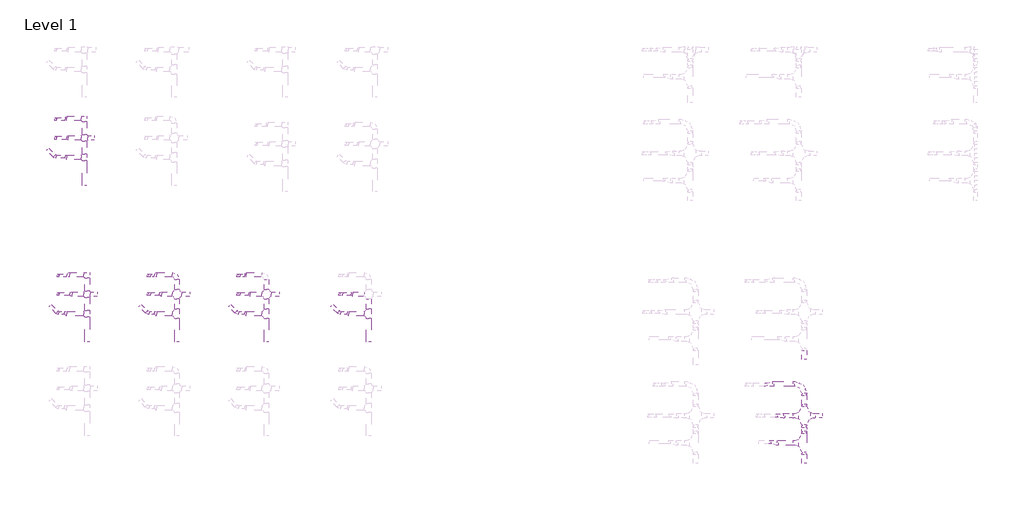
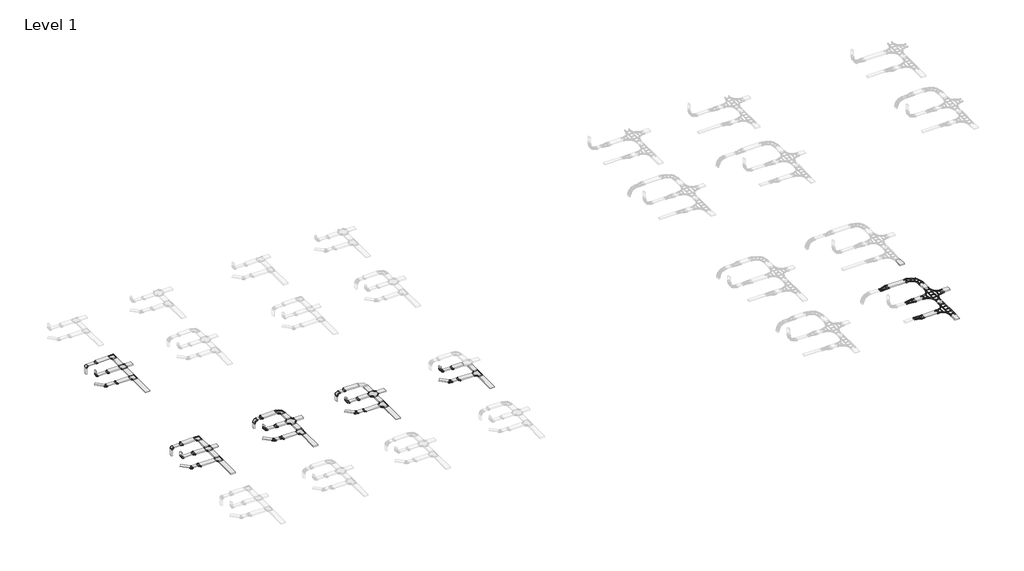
# One storey, part 2 of 9: 68 cable carrier segments, 46 cable carrier fittings.
"""IFC4 building model written with IfcOpenShell, lengths in millimetres."""

from ifc_helpers import new_model, si_unit, frame, origin, place, context, project, spatial, polyline, outline, extrude, transform, mapped, element, save
from components import cable_carrier_fitting_1_mm_2a4d519b, cable_carrier_fitting_1_mm_2e661681, cable_carrier_fitting_1_mm_c912ada3, cable_carrier_fitting_1_mm_5924018d, cable_carrier_fitting_1_mm_d3f2b815, cable_carrier_fitting_1_mm_367de262, cable_carrier_fitting_1_mm_a7febe8f, cable_carrier_fitting_1_mm_fc54f34e, cable_carrier_fitting_1_mm_42b71fda, cable_carrier_fitting_1_mm_1f89d0ee, cable_carrier_fitting_1_mm_ffd8b238, cable_carrier_fitting_1_mm_874ef249, cable_carrier_fitting_1_mm_28e4292d, cable_carrier_fitting_1_mm_9e79036f, cable_carrier_fitting_1_mm_2ea6bbca, cable_carrier_fitting_1_mm_d51f4f64, cable_carrier_fitting_1_mm_cfe8fd75, cable_carrier_fitting_1_mm_447bc4b9, cable_carrier_fitting_1_mm_be7f07a0, cable_carrier_fitting_1_mm_44e0f4b3, cable_carrier_fitting_1_mm_02684e42, cable_carrier_fitting_1_5_mm_3523910d, cable_carrier_fitting_1_5_mm_74426db5, cable_carrier_fitting_1_5_mm_ccf48cd3, cable_carrier_fitting_1_5_mm_0168b917, cable_carrier_fitting_1_mm_805de479, cable_carrier_fitting_1_mm_529289f4, cable_carrier_fitting_1_mm_c1197fce, cable_carrier_fitting_1_5_mm_cd1b78aa, cable_carrier_fitting_1_5_mm_8b0a73e9, cable_carrier_fitting_1_5_mm_19f47176

model = new_model("IFC4")

# Units and contexts
model_context = context("Model", 3, world=origin())
ifc_project = project(units=[si_unit("LENGTHUNIT", "METRE", prefix="MILLI")], contexts=[model_context])

# Site, building, storey
site = spatial("IfcSite", under=ifc_project)
building = spatial("IfcBuilding", under=site)
storey = spatial("IfcBuildingStorey", under=building, Name="Level 1", Elevation=0.0)

# Cable carrier fittings
placement = place(None, origin())
cable_carrier_fitting_1_mm_shape = cable_carrier_fitting_1_mm_2a4d519b(model_context)
element("IfcCableCarrierFitting", 1, ObjectType="BAKS_Redukcja : 1 mm", at=placement, inside=storey, context=model_context, shape_type="MappedRepresentation", body=[
    mapped(cable_carrier_fitting_1_mm_shape, transform((-20332.8504125, 13056.9815921, 2750.0), x_axis=(1.0, 0.0, 0.0), y_axis=(0.0, 1.0, 0.0), z_axis=(0.0, 0.0, 1.0))),
])
cable_carrier_fitting_1_mm_2_shape = cable_carrier_fitting_1_mm_2e661681(model_context)
element("IfcCableCarrierFitting", 2, ObjectType="BAKS_Redukcja : 1 mm", at=placement, inside=storey, context=model_context, shape_type="MappedRepresentation", body=[
    mapped(cable_carrier_fitting_1_mm_2_shape, transform((-20332.8504125, 14274.9728497, 2750.0), x_axis=(-1.0, 0.0, 0.0), y_axis=(0.0, -1.0, 0.0), z_axis=(0.0, 0.0, 1.0))),
])
cable_carrier_fitting_1_mm_3_shape = cable_carrier_fitting_1_mm_c912ada3(model_context)
element("IfcCableCarrierFitting", 3, ObjectType="BAKS_Redukcja : 1 mm", at=placement, inside=storey, context=model_context, shape_type="MappedRepresentation", body=[
    mapped(cable_carrier_fitting_1_mm_3_shape, transform((-20332.8504125, 11826.3491795, 2750.0), x_axis=(-1.0, 0.0, 0.0), y_axis=(0.0, -1.0, 0.0), z_axis=(0.0, 0.0, 1.0))),
])
cable_carrier_fitting_1_mm_4_shape = cable_carrier_fitting_1_mm_5924018d(model_context)
element("IfcCableCarrierFitting", 4, ObjectType="BAKS_Trójnik_koryta uniwersalny : 1 mm", at=placement, inside=storey, context=model_context, shape_type="MappedRepresentation", body=[
    mapped(cable_carrier_fitting_1_mm_4_shape, transform((-19070.165863, 2032.0937292, 2750.0), x_axis=(0.0, -1.0, 0.0), y_axis=(1.0, 0.0, 0.0), z_axis=(0.0, 0.0, 1.0))),
])
cable_carrier_fitting_1_mm_5_shape = cable_carrier_fitting_1_mm_d3f2b815(model_context)
element("IfcCableCarrierFitting", 5, ObjectType="BAKS_Czwórnik_koryta uniwersalny : 1 mm", at=placement, inside=storey, context=model_context, shape_type="MappedRepresentation", body=[
    mapped(cable_carrier_fitting_1_mm_5_shape, transform((-19070.165863, 3262.7261418, 2750.0), x_axis=(0.0, 1.0, 0.0), y_axis=(-1.0, 0.0, 0.0), z_axis=(0.0, 0.0, 1.0))),
])
cable_carrier_fitting_1_mm_6_shape = cable_carrier_fitting_1_mm_367de262(model_context)
element("IfcCableCarrierFitting", 6, ObjectType="BAKS_Czwórnik_koryta KLIK (R140) : 1 mm", at=placement, inside=storey, context=model_context, shape_type="MappedRepresentation", body=[
    mapped(cable_carrier_fitting_1_mm_6_shape, transform((-13450.165863, 3262.7261418, 2750.0), x_axis=(0.0, 1.0, 0.0), y_axis=(-1.0, 0.0, 0.0), z_axis=(0.0, 0.0, 1.0))),
])
cable_carrier_fitting_1_mm_7_shape = cable_carrier_fitting_1_mm_a7febe8f(model_context)
element("IfcCableCarrierFitting", 7, ObjectType="BAKS_Trójnik_koryta KLIK (R140) : 1 mm", at=placement, inside=storey, context=model_context, shape_type="MappedRepresentation", body=[
    mapped(cable_carrier_fitting_1_mm_7_shape, transform((-13450.165863, 2032.0937292, 2750.0), x_axis=(0.0, -1.0, 0.0), y_axis=(1.0, 0.0, 0.0), z_axis=(0.0, 0.0, 1.0))),
])
cable_carrier_fitting_1_mm_8_shape = cable_carrier_fitting_1_mm_fc54f34e(model_context)
element("IfcCableCarrierFitting", 8, ObjectType="BAKS_Kolano_koryta_uniwerslane : 1 mm", at=placement, inside=storey, context=model_context, shape_type="MappedRepresentation", body=[
    mapped(cable_carrier_fitting_1_mm_8_shape, transform((-20910.165863, 2082.0937292, 2750.0), x_axis=(0.7071067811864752, -0.70710678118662, 0.0), y_axis=(0.70710678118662, 0.7071067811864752, 0.0), z_axis=(0.0, 0.0, 1.0))),
])
cable_carrier_fitting_1_mm_9_shape = cable_carrier_fitting_1_mm_42b71fda(model_context)
element("IfcCableCarrierFitting", 9, ObjectType="BAKS_Kolano_koryta_uniwerslane : 1 mm", at=placement, inside=storey, context=model_context, shape_type="MappedRepresentation", body=[
    mapped(cable_carrier_fitting_1_mm_9_shape, transform((-19070.165863, 4480.7173994, 2750.0), x_axis=(0.0, 1.0, 0.0), y_axis=(-1.0, 0.0, 0.0), z_axis=(0.0, 0.0, 1.0))),
])
cable_carrier_fitting_1_mm_10_shape = cable_carrier_fitting_1_mm_1f89d0ee(model_context)
element("IfcCableCarrierFitting", 10, ObjectType="BAKS_Kolano_koryta_KLIK (R140) : 1 mm", at=placement, inside=storey, context=model_context, shape_type="MappedRepresentation", body=[
    mapped(cable_carrier_fitting_1_mm_10_shape, transform((-15290.165863, 2082.0937292, 2750.0), x_axis=(0.7071067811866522, -0.707106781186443, 0.0), y_axis=(0.707106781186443, 0.7071067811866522, 0.0), z_axis=(0.0, 0.0, 1.0))),
])
cable_carrier_fitting_1_mm_11_shape = cable_carrier_fitting_1_mm_ffd8b238(model_context)
element("IfcCableCarrierFitting", 11, ObjectType="BAKS_Kolano_koryta_KLIK (R140) : 1 mm", at=placement, inside=storey, context=model_context, shape_type="MappedRepresentation", body=[
    mapped(cable_carrier_fitting_1_mm_11_shape, transform((-13450.165863, 4480.7173994, 2750.0), x_axis=(0.0, 1.0, 0.0), y_axis=(-1.0, 0.0, 0.0), z_axis=(0.0, 0.0, 1.0))),
])
cable_carrier_fitting_1_mm_12_shape = cable_carrier_fitting_1_mm_874ef249(model_context)
element("IfcCableCarrierFitting", 12, ObjectType="BAKS_Kolano_koryta : 1 mm", at=placement, inside=storey, context=model_context, shape_type="MappedRepresentation", body=[
    mapped(cable_carrier_fitting_1_mm_12_shape, transform((-21072.8504125, 11876.3491795, 2750.0), x_axis=(0.7071067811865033, -0.7071067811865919, 0.0), y_axis=(0.7071067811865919, 0.7071067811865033, 0.0), z_axis=(0.0, 0.0, 1.0))),
])
cable_carrier_fitting_1_mm_13_shape = cable_carrier_fitting_1_mm_28e4292d(model_context)
element("IfcCableCarrierFitting", 13, ObjectType="BAKS_Kolano_koryta : 1 mm", at=placement, inside=storey, context=model_context, shape_type="MappedRepresentation", body=[
    mapped(cable_carrier_fitting_1_mm_13_shape, transform((-19232.8504125, 14274.9728497, 2750.0), x_axis=(0.0, 1.0, 0.0), y_axis=(-1.0, 0.0, 0.0), z_axis=(0.0, 0.0, 1.0))),
])
cable_carrier_fitting_1_mm_14_shape = cable_carrier_fitting_1_mm_9e79036f(model_context)
element("IfcCableCarrierFitting", 14, ObjectType="BAKS_Czwórnik_koryta : 1 mm", at=placement, inside=storey, context=model_context, shape_type="MappedRepresentation", body=[
    mapped(cable_carrier_fitting_1_mm_14_shape, transform((-19232.8504125, 13056.9815921, 2750.0), x_axis=(0.0, 1.0, 0.0), y_axis=(-1.0, 0.0, 0.0), z_axis=(0.0, 0.0, 1.0))),
])
cable_carrier_fitting_1_mm_15_shape = cable_carrier_fitting_1_mm_2ea6bbca(model_context)
element("IfcCableCarrierFitting", 15, ObjectType="BAKS_Trójnik_koryta : 1 mm", at=placement, inside=storey, context=model_context, shape_type="MappedRepresentation", body=[
    mapped(cable_carrier_fitting_1_mm_15_shape, transform((-19232.8504125, 11826.3491795, 2750.0), x_axis=(0.0, -1.0, 0.0), y_axis=(1.0, 0.0, 0.0), z_axis=(0.0, 0.0, 1.0))),
])
cable_carrier_fitting_1_mm_16_shape = cable_carrier_fitting_1_mm_d51f4f64(model_context)
element("IfcCableCarrierFitting", 16, ObjectType="BAKS_Łuk_koryta_pionowy (R50)z : 1 mm", at=placement, inside=storey, context=model_context, shape_type="MappedRepresentation", body=[
    mapped(cable_carrier_fitting_1_mm_16_shape, transform((-21072.8504125, 14224.9728497, 2750.0), x_axis=(0.0, 0.0, 1.0), y_axis=(1.0, 0.0, 0.0), z_axis=(0.0, 1.0, 0.0))),
])
element("IfcCableCarrierFitting", 17, ObjectType="BAKS_Łuk_koryta_pionowy (R50)w : 1 mm", at=placement, inside=storey, context=model_context, shape_type="MappedRepresentation", body=[
    mapped(cable_carrier_fitting_1_mm_16_shape, transform((-21072.8504125, 13056.9815921, 2750.0), x_axis=(0.0, 0.0, -1.0), y_axis=(1.0, 0.0, 0.0), z_axis=(0.0, -1.0, 0.0))),
])
cable_carrier_fitting_1_mm_17_shape = cable_carrier_fitting_1_mm_cfe8fd75(model_context)
element("IfcCableCarrierFitting", 18, ObjectType="BAKS_Łuk_koryta_pionowy (R50)z : 1 mm", at=placement, inside=storey, context=model_context, shape_type="MappedRepresentation", body=[
    mapped(cable_carrier_fitting_1_mm_17_shape, transform((-20910.165863, 4430.7173994, 2750.0), x_axis=(0.0, 0.0, 1.0), y_axis=(1.0, 0.0, 0.0), z_axis=(0.0, 1.0, 0.0))),
])
element("IfcCableCarrierFitting", 19, ObjectType="BAKS_Łuk_koryta_pionowy (R50)w : 1 mm", at=placement, inside=storey, context=model_context, shape_type="MappedRepresentation", body=[
    mapped(cable_carrier_fitting_1_mm_17_shape, transform((-20910.165863, 3262.7261418, 2750.0), x_axis=(0.0, 0.0, -1.0), y_axis=(1.0, 0.0, 0.0), z_axis=(0.0, -1.0, 0.0))),
])
cable_carrier_fitting_1_mm_18_shape = cable_carrier_fitting_1_mm_447bc4b9(model_context)
element("IfcCableCarrierFitting", 20, ObjectType="BAKS_Redukcja KLIK : 1 mm", at=placement, inside=storey, context=model_context, shape_type="MappedRepresentation", body=[
    mapped(cable_carrier_fitting_1_mm_18_shape, transform((-20170.165863, 3262.7261418, 2750.0), x_axis=(1.0, 0.0, 0.0), y_axis=(0.0, 1.0, 0.0), z_axis=(0.0, 0.0, 1.0))),
])
element("IfcCableCarrierFitting", 21, ObjectType="BAKS_Redukcja KLIK : 1 mm", at=placement, inside=storey, context=model_context, shape_type="MappedRepresentation", body=[
    mapped(cable_carrier_fitting_1_mm_18_shape, transform((-14550.165863, 3262.7261418, 2750.0), x_axis=(1.0, 0.0, 0.0), y_axis=(0.0, 1.0, 0.0), z_axis=(0.0, 0.0, 1.0))),
])
cable_carrier_fitting_1_mm_19_shape = cable_carrier_fitting_1_mm_be7f07a0(model_context)
element("IfcCableCarrierFitting", 22, ObjectType="BAKS_Redukcja KLIK : 1 mm", at=placement, inside=storey, context=model_context, shape_type="MappedRepresentation", body=[
    mapped(cable_carrier_fitting_1_mm_19_shape, transform((-20170.165863, 4480.7173994, 2750.0), x_axis=(-1.0, 0.0, 0.0), y_axis=(0.0, -1.0, 0.0), z_axis=(0.0, 0.0, 1.0))),
])
element("IfcCableCarrierFitting", 23, ObjectType="BAKS_Redukcja KLIK : 1 mm", at=placement, inside=storey, context=model_context, shape_type="MappedRepresentation", body=[
    mapped(cable_carrier_fitting_1_mm_19_shape, transform((-14710.165863, 4480.7173994, 2750.0), x_axis=(-1.0, 0.0, 0.0), y_axis=(0.0, -1.0, 0.0), z_axis=(0.0, 0.0, 1.0))),
])
cable_carrier_fitting_1_mm_20_shape = cable_carrier_fitting_1_mm_44e0f4b3(model_context)
element("IfcCableCarrierFitting", 24, ObjectType="BAKS_Redukcja KLIK : 1 mm", at=placement, inside=storey, context=model_context, shape_type="MappedRepresentation", body=[
    mapped(cable_carrier_fitting_1_mm_20_shape, transform((-20330.165863, 2032.0937292, 2750.0), x_axis=(-1.0, 0.0, 0.0), y_axis=(0.0, -1.0, 0.0), z_axis=(0.0, 0.0, 1.0))),
])
element("IfcCableCarrierFitting", 25, ObjectType="BAKS_Redukcja KLIK : 1 mm", at=placement, inside=storey, context=model_context, shape_type="MappedRepresentation", body=[
    mapped(cable_carrier_fitting_1_mm_20_shape, transform((-14710.165863, 2032.0937292, 2750.0), x_axis=(-1.0, 0.0, 0.0), y_axis=(0.0, -1.0, 0.0), z_axis=(0.0, 0.0, 1.0))),
])
cable_carrier_fitting_1_mm_21_shape = cable_carrier_fitting_1_mm_02684e42(model_context)
element("IfcCableCarrierFitting", 26, ObjectType="BAKS_Łuk_koryta_pionowy (R140)z : 1 mm", at=placement, inside=storey, context=model_context, shape_type="MappedRepresentation", body=[
    mapped(cable_carrier_fitting_1_mm_21_shape, transform((-15290.165863, 4430.7173994, 2750.0), x_axis=(0.0, 0.0, 1.0), y_axis=(1.0, 0.0, 0.0), z_axis=(0.0, 1.0, 0.0))),
])
element("IfcCableCarrierFitting", 27, ObjectType="BAKS_Łuk_koryta_pionowy (R140)w : 1 mm", at=placement, inside=storey, context=model_context, shape_type="MappedRepresentation", body=[
    mapped(cable_carrier_fitting_1_mm_21_shape, transform((-15290.165863, 3262.7261418, 2750.0), x_axis=(0.0, 0.0, -1.0), y_axis=(1.0, 0.0, 0.0), z_axis=(0.0, -1.0, 0.0))),
])
cable_carrier_fitting_1_5_mm_shape = cable_carrier_fitting_1_5_mm_3523910d(model_context)
element("IfcCableCarrierFitting", 28, ObjectType="BAKS_Łuk_drabiny E90 : 1.5 mm", at=placement, inside=storey, context=model_context, shape_type="MappedRepresentation", body=[
    mapped(cable_carrier_fitting_1_5_mm_shape, transform((25812.7309526, -2363.4535, 2750.0), x_axis=(0.0, 1.0, 0.0), y_axis=(-1.0, 0.0, 0.0), z_axis=(0.0, 0.0, 1.0))),
])
cable_carrier_fitting_1_5_mm_2_shape = cable_carrier_fitting_1_5_mm_74426db5(model_context)
element("IfcCableCarrierFitting", 29, ObjectType="BAKS_Redukcja_drabiny E90 : 1.5 mm", at=placement, inside=storey, context=model_context, shape_type="MappedRepresentation", body=[
    mapped(cable_carrier_fitting_1_5_mm_2_shape, transform((24621.055047, -4350.2319503, 2750.0), x_axis=(-1.0, 0.0, 0.0), y_axis=(0.0, -1.0, 0.0), z_axis=(0.0, 0.0, 1.0))),
])
cable_carrier_fitting_1_5_mm_3_shape = cable_carrier_fitting_1_5_mm_ccf48cd3(model_context)
element("IfcCableCarrierFitting", 30, ObjectType="BAKS_Redukcja_drabiny E90 : 1.5 mm", at=placement, inside=storey, context=model_context, shape_type="MappedRepresentation", body=[
    mapped(cable_carrier_fitting_1_5_mm_3_shape, transform((24212.7309526, -6052.0771703, 2750.0), x_axis=(-1.0, 0.0, 0.0), y_axis=(0.0, -1.0, 0.0), z_axis=(0.0, 0.0, 1.0))),
])
cable_carrier_fitting_1_5_mm_4_shape = cable_carrier_fitting_1_5_mm_0168b917(model_context)
element("IfcCableCarrierFitting", 31, ObjectType="BAKS_Redukcja_drabiny E90 : 1.5 mm", at=placement, inside=storey, context=model_context, shape_type="MappedRepresentation", body=[
    mapped(cable_carrier_fitting_1_5_mm_4_shape, transform((23346.1450634, -2413.4535, 2750.0), x_axis=(1.0, 0.0, 0.0), y_axis=(0.0, 1.0, 0.0), z_axis=(0.0, 0.0, 1.0))),
])
cable_carrier_fitting_1_mm_22_shape = cable_carrier_fitting_1_mm_805de479(model_context)
element("IfcCableCarrierFitting", 32, ObjectType="BAKS_Redukcja E90 : 1.5 mm", at=placement, inside=storey, context=model_context, shape_type="MappedRepresentation", body=[
    mapped(cable_carrier_fitting_1_mm_22_shape, transform((-2542.5459295, 3262.7261418, 2750.0), x_axis=(1.0, 0.0, 0.0), y_axis=(0.0, 1.0, 0.0), z_axis=(0.0, 0.0, 1.0))),
])
element("IfcCableCarrierFitting", 33, ObjectType="BAKS_Redukcja E90 : 1.5 mm", at=placement, inside=storey, context=model_context, shape_type="MappedRepresentation", body=[
    mapped(cable_carrier_fitting_1_mm_22_shape, transform((-8942.5459295, 3262.7261418, 2750.0), x_axis=(1.0, 0.0, 0.0), y_axis=(0.0, 1.0, 0.0), z_axis=(0.0, 0.0, 1.0))),
])
cable_carrier_fitting_1_mm_23_shape = cable_carrier_fitting_1_mm_529289f4(model_context)
element("IfcCableCarrierFitting", 34, ObjectType="BAKS_Redukcja E90 : 1.5 mm", at=placement, inside=storey, context=model_context, shape_type="MappedRepresentation", body=[
    mapped(cable_carrier_fitting_1_mm_23_shape, transform((-9102.5459295, 4480.7173994, 2750.0), x_axis=(-1.0, 0.0, 0.0), y_axis=(0.0, -1.0, 0.0), z_axis=(0.0, 0.0, 1.0))),
])
cable_carrier_fitting_1_mm_24_shape = cable_carrier_fitting_1_mm_c1197fce(model_context)
element("IfcCableCarrierFitting", 35, ObjectType="BAKS_Redukcja E90 : 1.5 mm", at=placement, inside=storey, context=model_context, shape_type="MappedRepresentation", body=[
    mapped(cable_carrier_fitting_1_mm_24_shape, transform((-2702.5459295, 2032.0937292, 2750.0), x_axis=(-1.0, 0.0, 0.0), y_axis=(0.0, -1.0, 0.0), z_axis=(0.0, 0.0, 1.0))),
])
element("IfcCableCarrierFitting", 36, ObjectType="BAKS_Redukcja E90 : 1.5 mm", at=placement, inside=storey, context=model_context, shape_type="MappedRepresentation", body=[
    mapped(cable_carrier_fitting_1_mm_24_shape, transform((-9102.5459295, 2032.0937292, 2750.0), x_axis=(-1.0, 0.0, 0.0), y_axis=(0.0, -1.0, 0.0), z_axis=(0.0, 0.0, 1.0))),
])
cable_carrier_fitting_1_5_mm_5_shape = cable_carrier_fitting_1_5_mm_cd1b78aa(model_context)
element("IfcCableCarrierFitting", 37, ObjectType="BAKS_Kolano_koryta E90 (R140) : 1.5 mm", at=placement, inside=storey, context=model_context, shape_type="MappedRepresentation", body=[
    mapped(cable_carrier_fitting_1_5_mm_5_shape, transform((-3282.5459295, 2082.0937292, 2750.0), x_axis=(0.7071067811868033, -0.7071067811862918, 0.0), y_axis=(0.7071067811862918, 0.7071067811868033, 0.0), z_axis=(0.0, 0.0, 1.0))),
])
element("IfcCableCarrierFitting", 38, ObjectType="BAKS_Kolano_koryta E90 (R140) : 1.5 mm", at=placement, inside=storey, context=model_context, shape_type="MappedRepresentation", body=[
    mapped(cable_carrier_fitting_1_5_mm_5_shape, transform((-9682.5459295, 2082.0937292, 2750.0), x_axis=(0.7071067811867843, -0.7071067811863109, 0.0), y_axis=(0.7071067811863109, 0.7071067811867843, 0.0), z_axis=(0.0, 0.0, 1.0))),
])
element("IfcCableCarrierFitting", 39, ObjectType="BAKS_Czwórnik_koryta E90 (R140) : 1.5 mm", at=placement, inside=storey, context=model_context, shape_type="MappedRepresentation", body=[
    mapped(cable_carrier_fitting_1_mm_6_shape, transform((-7842.5459295, 3262.7261418, 2750.0), x_axis=(0.0, 1.0, 0.0), y_axis=(-1.0, 0.0, 0.0), z_axis=(0.0, 0.0, 1.0))),
])
element("IfcCableCarrierFitting", 40, ObjectType="BAKS_Trójnik_koryta E90 (R140) : 1.5 mm", at=placement, inside=storey, context=model_context, shape_type="MappedRepresentation", body=[
    mapped(cable_carrier_fitting_1_mm_7_shape, transform((-1442.5459295, 2032.0937292, 2750.0), x_axis=(0.0, -1.0, 0.0), y_axis=(1.0, 0.0, 0.0), z_axis=(0.0, 0.0, 1.0))),
])
element("IfcCableCarrierFitting", 41, ObjectType="BAKS_Trójnik_koryta E90 (R140) : 1.5 mm", at=placement, inside=storey, context=model_context, shape_type="MappedRepresentation", body=[
    mapped(cable_carrier_fitting_1_mm_7_shape, transform((-7842.5459295, 2032.0937292, 2750.0), x_axis=(0.0, -1.0, 0.0), y_axis=(1.0, 0.0, 0.0), z_axis=(0.0, 0.0, 1.0))),
])
cable_carrier_fitting_1_5_mm_6_shape = cable_carrier_fitting_1_5_mm_8b0a73e9(model_context)
element("IfcCableCarrierFitting", 42, ObjectType="BAKS_Trójnik_drabiny E90 : 1.5 mm", at=placement, inside=storey, context=model_context, shape_type="MappedRepresentation", body=[
    mapped(cable_carrier_fitting_1_5_mm_6_shape, transform((25812.7309526, -6052.0771703, 2750.0), x_axis=(0.0, -1.0, 0.0), y_axis=(1.0, 0.0, 0.0), z_axis=(0.0, 0.0, 1.0))),
])
cable_carrier_fitting_1_5_mm_7_shape = cable_carrier_fitting_1_5_mm_19f47176(model_context)
element("IfcCableCarrierFitting", 43, ObjectType="BAKS_Czwórnik_drabiny E90 : 1.5 mm", at=placement, inside=storey, context=model_context, shape_type="MappedRepresentation", body=[
    mapped(cable_carrier_fitting_1_5_mm_7_shape, transform((25812.7309526, -4350.2319503, 2750.0), x_axis=(0.0, 1.0, 0.0), y_axis=(-1.0, 0.0, 0.0), z_axis=(0.0, 0.0, 1.0))),
])
element("IfcCableCarrierFitting", 44, ObjectType="BAKS_Łuk_koryta_pionowy E90 (R140)z : 1.5 mm", at=placement, inside=storey, context=model_context, shape_type="MappedRepresentation", body=[
    mapped(cable_carrier_fitting_1_mm_21_shape, transform((-9682.5459295, 4430.7173994, 2750.0), x_axis=(0.0, 0.0, 1.0), y_axis=(1.0, 0.0, 0.0), z_axis=(0.0, 1.0, 0.0))),
])
element("IfcCableCarrierFitting", 45, ObjectType="BAKS_Łuk_koryta_pionowy E90 (R140)w : 1.5 mm", at=placement, inside=storey, context=model_context, shape_type="MappedRepresentation", body=[
    mapped(cable_carrier_fitting_1_mm_21_shape, transform((-3282.5459295, 3262.7261418, 2750.0), x_axis=(0.0, 0.0, -1.0), y_axis=(1.0, 0.0, 0.0), z_axis=(0.0, -1.0, 0.0))),
])
element("IfcCableCarrierFitting", 46, ObjectType="BAKS_Łuk_koryta_pionowy E90 (R140)w : 1.5 mm", at=placement, inside=storey, context=model_context, shape_type="MappedRepresentation", body=[
    mapped(cable_carrier_fitting_1_mm_21_shape, transform((-9682.5459295, 3262.7261418, 2750.0), x_axis=(0.0, 0.0, -1.0), y_axis=(1.0, 0.0, 0.0), z_axis=(0.0, -1.0, 0.0))),
])

# Cable carrier segments
element("IfcCableCarrierSegment", 47, ObjectType="BAKS - koryto kablowe H60 KLIK (KFJ) - ostre", at=placement, inside=storey, context=model_context, shape_type="SweptSolid", body=[
    extrude(outline(polyline([(-18920.165863, 2237.0937292), (-19220.165863, 2237.0937292), (-19220.165863, 3057.7261418), (-18920.165863, 3057.7261418), (-18920.165863, 2237.0937292)])), frame((0.0, 0.0, 2720.0), z_axis=(0.0, 0.0, 1.0), x_axis=(1.0, 0.0, 0.0)), (0.0, 0.0, 1.0), 60.0),
])
element("IfcCableCarrierSegment", 48, ObjectType="BAKS - koryto kablowe H60 KLIK (KFJ) - ostre", at=placement, inside=storey, context=model_context, shape_type="SweptSolid", body=[
    extrude(outline(polyline([(-20880.165863, 4330.7173994), (-20940.165863, 4330.7173994), (-20940.165863, 4530.7173994), (-20880.165863, 4530.7173994), (-20880.165863, 4330.7173994)])), frame((0.0, 0.0, 2200.0), z_axis=(0.0, 0.0, 1.0), x_axis=(1.0, 0.0, 0.0)), (0.0, 0.0, 1.0), 445.0),
])
element("IfcCableCarrierSegment", 49, ObjectType="BAKS - koryto kablowe H60 KLIK (KFJ) - ostre", at=placement, inside=storey, context=model_context, shape_type="SweptSolid", body=[
    extrude(outline(polyline([(-20330.165863, 4530.7173994), (-20330.165863, 4330.7173994), (-20805.165863, 4330.7173994), (-20805.165863, 4530.7173994), (-20330.165863, 4530.7173994)])), frame((0.0, 0.0, 2720.0), z_axis=(0.0, 0.0, 1.0), x_axis=(1.0, 0.0, 0.0)), (0.0, 0.0, 1.0), 60.0),
])
element("IfcCableCarrierSegment", 50, ObjectType="BAKS - koryto kablowe H60 KLIK (KFJ) - ostre", at=placement, inside=storey, context=model_context, shape_type="SweptSolid", body=[
    extrude(outline(polyline([(-18920.165863, 280.7173994), (-19220.165863, 280.7173994), (-19220.165863, 1827.0937292), (-18920.165863, 1827.0937292), (-18920.165863, 280.7173994)])), frame((0.0, 0.0, 2720.0), z_axis=(0.0, 0.0, 1.0), x_axis=(1.0, 0.0, 0.0)), (0.0, 0.0, 1.0), 60.0),
])
element("IfcCableCarrierSegment", 51, ObjectType="BAKS - koryto kablowe H60 KLIK (KFJ) - ostre", at=placement, inside=storey, context=model_context, shape_type="SweptSolid", body=[
    extrude(outline(polyline([(-20940.165863, 3162.7261418), (-20940.165863, 3362.7261418), (-20880.165863, 3362.7261418), (-20880.165863, 3162.7261418), (-20940.165863, 3162.7261418)])), frame((0.0, 0.0, 2855.0), z_axis=(0.0, 0.0, 1.0), x_axis=(1.0, 0.0, 0.0)), (0.0, 0.0, 1.0), 245.0),
])
element("IfcCableCarrierSegment", 52, ObjectType="BAKS - koryto kablowe H60 KLIK (KFJ) - ostre", at=placement, inside=storey, context=model_context, shape_type="SweptSolid", body=[
    extrude(outline(polyline([(-20805.165863, 3162.7261418), (-20805.165863, 3362.7261418), (-20170.165863, 3362.7261418), (-20170.165863, 3162.7261418), (-20805.165863, 3162.7261418)])), frame((0.0, 0.0, 2720.0), z_axis=(0.0, 0.0, 1.0), x_axis=(1.0, 0.0, 0.0)), (0.0, 0.0, 1.0), 60.0),
])
element("IfcCableCarrierSegment", 53, ObjectType="BAKS - koryto kablowe H60 KLIK (KFJ) - ostre", at=placement, inside=storey, context=model_context, shape_type="SweptSolid", body=[
    extrude(outline(polyline([(-21447.5670167, 2478.0735267), (-21306.1456605, 2619.4948829), (-20885.5607406, 2198.909963), (-21026.9820968, 2057.4886068), (-21447.5670167, 2478.0735267)])), frame((0.0, 0.0, 2720.0), z_axis=(0.0, 0.0, 1.0), x_axis=(1.0, 0.0, 0.0)), (0.0, 0.0, 1.0), 60.0),
])
element("IfcCableCarrierSegment", 54, ObjectType="BAKS - koryto kablowe H60 KLIK (KFJ) - ostre", at=placement, inside=storey, context=model_context, shape_type="SweptSolid", body=[
    extrude(outline(polyline([(-20490.165863, 2182.0937292), (-20490.165863, 1982.0937292), (-20844.9627608, 1982.0937292), (-20844.9627608, 2182.0937292), (-20490.165863, 2182.0937292)])), frame((0.0, 0.0, 2720.0), z_axis=(0.0, 0.0, 1.0), x_axis=(1.0, 0.0, 0.0)), (0.0, 0.0, 1.0), 60.0),
])
element("IfcCableCarrierSegment", 55, ObjectType="BAKS - koryto kablowe H60 KLIK (KFJ) - ostre", at=placement, inside=storey, context=model_context, shape_type="SweptSolid", body=[
    extrude(outline(polyline([(-18447.665863, 3412.7261418), (-18447.665863, 3112.7261418), (-18865.165863, 3112.7261418), (-18865.165863, 3412.7261418), (-18447.665863, 3412.7261418)])), frame((0.0, 0.0, 2720.0), z_axis=(0.0, 0.0, 1.0), x_axis=(1.0, 0.0, 0.0)), (0.0, 0.0, 1.0), 60.0),
])
element("IfcCableCarrierSegment", 56, ObjectType="BAKS - koryto kablowe H60 KLIK (KFJ) - ostre", at=placement, inside=storey, context=model_context, shape_type="SweptSolid", body=[
    extrude(outline(polyline([(-19275.165863, 2182.0937292), (-19275.165863, 1882.0937292), (-20330.165863, 1882.0937292), (-20330.165863, 2182.0937292), (-19275.165863, 2182.0937292)])), frame((0.0, 0.0, 2720.0), z_axis=(0.0, 0.0, 1.0), x_axis=(1.0, 0.0, 0.0)), (0.0, 0.0, 1.0), 60.0),
])
element("IfcCableCarrierSegment", 57, ObjectType="BAKS - koryto kablowe H60 KLIK (KFJ) - ostre", at=placement, inside=storey, context=model_context, shape_type="SweptSolid", body=[
    extrude(outline(polyline([(-20010.165863, 3112.7261418), (-20010.165863, 3412.7261418), (-19275.165863, 3412.7261418), (-19275.165863, 3112.7261418), (-20010.165863, 3112.7261418)])), frame((0.0, 0.0, 2720.0), z_axis=(0.0, 0.0, 1.0), x_axis=(1.0, 0.0, 0.0)), (0.0, 0.0, 1.0), 60.0),
])
element("IfcCableCarrierSegment", 58, ObjectType="BAKS - koryto kablowe H60 KLIK (KFJ) - ostre", at=placement, inside=storey, context=model_context, shape_type="SweptSolid", body=[
    extrude(outline(polyline([(-18920.165863, 3467.7261418), (-19220.165863, 3467.7261418), (-19220.165863, 4274.7173994), (-18920.165863, 4274.7173994), (-18920.165863, 3467.7261418)])), frame((0.0, 0.0, 2720.0), z_axis=(0.0, 0.0, 1.0), x_axis=(1.0, 0.0, 0.0)), (0.0, 0.0, 1.0), 60.0),
])
element("IfcCableCarrierSegment", 59, ObjectType="BAKS - koryto kablowe H60 KLIK (KFJ) - ostre", at=placement, inside=storey, context=model_context, shape_type="SweptSolid", body=[
    extrude(outline(polyline([(-19276.165863, 4630.7173994), (-19276.165863, 4330.7173994), (-20170.165863, 4330.7173994), (-20170.165863, 4630.7173994), (-19276.165863, 4630.7173994)])), frame((0.0, 0.0, 2720.0), z_axis=(0.0, 0.0, 1.0), x_axis=(1.0, 0.0, 0.0)), (0.0, 0.0, 1.0), 60.0),
])
element("IfcCableCarrierSegment", 60, ObjectType="BAKS - koryto kablowe H60 KLIK (KFJ) - promieniowe", at=placement, inside=storey, context=model_context, shape_type="SweptSolid", body=[
    extrude(outline(polyline([(-13300.165863, 2323.0937292), (-13600.165863, 2323.0937292), (-13600.165863, 2971.7261418), (-13300.165863, 2971.7261418), (-13300.165863, 2323.0937292)])), frame((0.0, 0.0, 2720.0), z_axis=(0.0, 0.0, 1.0), x_axis=(1.0, 0.0, 0.0)), (0.0, 0.0, 1.0), 60.0),
])
element("IfcCableCarrierSegment", 61, ObjectType="BAKS - koryto kablowe H60 KLIK (KFJ) - promieniowe", at=placement, inside=storey, context=model_context, shape_type="SweptSolid", body=[
    extrude(outline(polyline([(-15260.165863, 4330.7173994), (-15320.165863, 4330.7173994), (-15320.165863, 4530.7173994), (-15260.165863, 4530.7173994), (-15260.165863, 4330.7173994)])), frame((0.0, 0.0, 2200.0), z_axis=(0.0, 0.0, 1.0), x_axis=(1.0, 0.0, 0.0)), (0.0, 0.0, 1.0), 355.0),
])
element("IfcCableCarrierSegment", 62, ObjectType="BAKS - koryto kablowe H60 KLIK (KFJ) - promieniowe", at=placement, inside=storey, context=model_context, shape_type="SweptSolid", body=[
    extrude(outline(polyline([(-14870.165863, 4530.7173994), (-14870.165863, 4330.7173994), (-15095.165863, 4330.7173994), (-15095.165863, 4530.7173994), (-14870.165863, 4530.7173994)])), frame((0.0, 0.0, 2720.0), z_axis=(0.0, 0.0, 1.0), x_axis=(1.0, 0.0, 0.0)), (0.0, 0.0, 1.0), 60.0),
])
element("IfcCableCarrierSegment", 63, ObjectType="BAKS - koryto kablowe H60 KLIK (KFJ) - promieniowe", at=placement, inside=storey, context=model_context, shape_type="SweptSolid", body=[
    extrude(outline(polyline([(-13300.165863, 280.7173994), (-13600.165863, 280.7173994), (-13600.165863, 1741.0937292), (-13300.165863, 1741.0937292), (-13300.165863, 280.7173994)])), frame((0.0, 0.0, 2720.0), z_axis=(0.0, 0.0, 1.0), x_axis=(1.0, 0.0, 0.0)), (0.0, 0.0, 1.0), 60.0),
])
element("IfcCableCarrierSegment", 64, ObjectType="BAKS - koryto kablowe H60 KLIK (KFJ) - promieniowe", at=placement, inside=storey, context=model_context, shape_type="SweptSolid", body=[
    extrude(outline(polyline([(-15320.165863, 3162.7261418), (-15320.165863, 3362.7261418), (-15260.165863, 3362.7261418), (-15260.165863, 3162.7261418), (-15320.165863, 3162.7261418)])), frame((0.0, 0.0, 2945.0), z_axis=(0.0, 0.0, 1.0), x_axis=(1.0, 0.0, 0.0)), (0.0, 0.0, 1.0), 155.0),
])
element("IfcCableCarrierSegment", 65, ObjectType="BAKS - koryto kablowe H60 KLIK (KFJ) - promieniowe", at=placement, inside=storey, context=model_context, shape_type="SweptSolid", body=[
    extrude(outline(polyline([(-15095.165863, 3162.7261418), (-15095.165863, 3362.7261418), (-14550.165863, 3362.7261418), (-14550.165863, 3162.7261418), (-15095.165863, 3162.7261418)])), frame((0.0, 0.0, 2720.0), z_axis=(0.0, 0.0, 1.0), x_axis=(1.0, 0.0, 0.0)), (0.0, 0.0, 1.0), 60.0),
])
element("IfcCableCarrierSegment", 66, ObjectType="BAKS - koryto kablowe H60 KLIK (KFJ) - promieniowe", at=placement, inside=storey, context=model_context, shape_type="SweptSolid", body=[
    extrude(outline(polyline([(-15827.5670167, 2478.0735267), (-15686.1456605, 2619.4948829), (-15290.4566642, 2223.8058866), (-15431.8780204, 2082.3845304), (-15827.5670167, 2478.0735267)])), frame((0.0, 0.0, 2720.0), z_axis=(0.0, 0.0, 1.0), x_axis=(1.0, 0.0, 0.0)), (0.0, 0.0, 1.0), 60.0),
])
element("IfcCableCarrierSegment", 67, ObjectType="BAKS - koryto kablowe H60 KLIK (KFJ) - promieniowe", at=placement, inside=storey, context=model_context, shape_type="SweptSolid", body=[
    extrude(outline(polyline([(-14870.165863, 2182.0937292), (-14870.165863, 1982.0937292), (-15189.754608, 1982.0937292), (-15189.754608, 2182.0937292), (-14870.165863, 2182.0937292)])), frame((0.0, 0.0, 2720.0), z_axis=(0.0, 0.0, 1.0), x_axis=(1.0, 0.0, 0.0)), (0.0, 0.0, 1.0), 60.0),
])
element("IfcCableCarrierSegment", 68, ObjectType="BAKS - koryto kablowe H60 KLIK (KFJ) - promieniowe", at=placement, inside=storey, context=model_context, shape_type="SweptSolid", body=[
    extrude(outline(polyline([(-12655.165863, 3412.7261418), (-12655.165863, 3112.7261418), (-13159.165863, 3112.7261418), (-13159.165863, 3412.7261418), (-12655.165863, 3412.7261418)])), frame((0.0, 0.0, 2720.0), z_axis=(0.0, 0.0, 1.0), x_axis=(1.0, 0.0, 0.0)), (0.0, 0.0, 1.0), 60.0),
])
element("IfcCableCarrierSegment", 69, ObjectType="BAKS - koryto kablowe H60 KLIK (KFJ) - promieniowe", at=placement, inside=storey, context=model_context, shape_type="SweptSolid", body=[
    extrude(outline(polyline([(-13741.165863, 2182.0937292), (-13741.165863, 1882.0937292), (-14710.165863, 1882.0937292), (-14710.165863, 2182.0937292), (-13741.165863, 2182.0937292)])), frame((0.0, 0.0, 2720.0), z_axis=(0.0, 0.0, 1.0), x_axis=(1.0, 0.0, 0.0)), (0.0, 0.0, 1.0), 60.0),
])
element("IfcCableCarrierSegment", 70, ObjectType="BAKS - koryto kablowe H60 KLIK (KFJ) - promieniowe", at=placement, inside=storey, context=model_context, shape_type="SweptSolid", body=[
    extrude(outline(polyline([(-14390.165863, 3112.7261418), (-14390.165863, 3412.7261418), (-13741.165863, 3412.7261418), (-13741.165863, 3112.7261418), (-14390.165863, 3112.7261418)])), frame((0.0, 0.0, 2720.0), z_axis=(0.0, 0.0, 1.0), x_axis=(1.0, 0.0, 0.0)), (0.0, 0.0, 1.0), 60.0),
])
element("IfcCableCarrierSegment", 71, ObjectType="BAKS - koryto kablowe H60 KLIK (KFJ) - promieniowe", at=placement, inside=storey, context=model_context, shape_type="SweptSolid", body=[
    extrude(outline(polyline([(-13300.165863, 3553.7261418), (-13600.165863, 3553.7261418), (-13600.165863, 4189.7173994), (-13300.165863, 4189.7173994), (-13300.165863, 3553.7261418)])), frame((0.0, 0.0, 2720.0), z_axis=(0.0, 0.0, 1.0), x_axis=(1.0, 0.0, 0.0)), (0.0, 0.0, 1.0), 60.0),
])
element("IfcCableCarrierSegment", 72, ObjectType="BAKS - koryto kablowe H60 KLIK (KFJ) - promieniowe", at=placement, inside=storey, context=model_context, shape_type="SweptSolid", body=[
    extrude(outline(polyline([(-13741.165863, 4630.7173994), (-13741.165863, 4330.7173994), (-14710.165863, 4330.7173994), (-14710.165863, 4630.7173994), (-13741.165863, 4630.7173994)])), frame((0.0, 0.0, 2720.0), z_axis=(0.0, 0.0, 1.0), x_axis=(1.0, 0.0, 0.0)), (0.0, 0.0, 1.0), 60.0),
])
element("IfcCableCarrierSegment", 73, ObjectType="BAKS - koryto kablowe H50 (KCJ) - ostre", at=placement, inside=storey, context=model_context, shape_type="SweptSolid", body=[
    extrude(outline(polyline([(-19082.8504125, 12031.3491795), (-19382.8504125, 12031.3491795), (-19382.8504125, 12851.9815921), (-19082.8504125, 12851.9815921), (-19082.8504125, 12031.3491795)])), frame((0.0, 0.0, 2725.0), z_axis=(0.0, 0.0, 1.0), x_axis=(1.0, 0.0, 0.0)), (0.0, 0.0, 1.0), 50.0),
])
element("IfcCableCarrierSegment", 74, ObjectType="BAKS - koryto kablowe H50 (KCJ) - ostre", at=placement, inside=storey, context=model_context, shape_type="SweptSolid", body=[
    extrude(outline(polyline([(-21047.8504125, 14124.9728497), (-21097.8504125, 14124.9728497), (-21097.8504125, 14324.9728497), (-21047.8504125, 14324.9728497), (-21047.8504125, 14124.9728497)])), frame((0.0, 0.0, 2200.0), z_axis=(0.0, 0.0, 1.0), x_axis=(1.0, 0.0, 0.0)), (0.0, 0.0, 1.0), 450.0),
])
element("IfcCableCarrierSegment", 75, ObjectType="BAKS - koryto kablowe H50 (KCJ) - ostre", at=placement, inside=storey, context=model_context, shape_type="SweptSolid", body=[
    extrude(outline(polyline([(-20427.8504125, 14324.9728497), (-20427.8504125, 14124.9728497), (-20972.8504125, 14124.9728497), (-20972.8504125, 14324.9728497), (-20427.8504125, 14324.9728497)])), frame((0.0, 0.0, 2725.0), z_axis=(0.0, 0.0, 1.0), x_axis=(1.0, 0.0, 0.0)), (0.0, 0.0, 1.0), 50.0),
])
element("IfcCableCarrierSegment", 76, ObjectType="BAKS - koryto kablowe H50 (KCJ) - ostre", at=placement, inside=storey, context=model_context, shape_type="SweptSolid", body=[
    extrude(outline(polyline([(-19082.8504125, 10074.9728497), (-19382.8504125, 10074.9728497), (-19382.8504125, 11621.3491795), (-19082.8504125, 11621.3491795), (-19082.8504125, 10074.9728497)])), frame((0.0, 0.0, 2725.0), z_axis=(0.0, 0.0, 1.0), x_axis=(1.0, 0.0, 0.0)), (0.0, 0.0, 1.0), 50.0),
])
element("IfcCableCarrierSegment", 77, ObjectType="BAKS - koryto kablowe H50 (KCJ) - ostre", at=placement, inside=storey, context=model_context, shape_type="SweptSolid", body=[
    extrude(outline(polyline([(-21097.8504125, 12956.9815921), (-21097.8504125, 13156.9815921), (-21047.8504125, 13156.9815921), (-21047.8504125, 12956.9815921), (-21097.8504125, 12956.9815921)])), frame((0.0, 0.0, 2850.0), z_axis=(0.0, 0.0, 1.0), x_axis=(1.0, 0.0, 0.0)), (0.0, 0.0, 1.0), 250.0),
])
element("IfcCableCarrierSegment", 78, ObjectType="BAKS - koryto kablowe H50 (KCJ) - ostre", at=placement, inside=storey, context=model_context, shape_type="SweptSolid", body=[
    extrude(outline(polyline([(-20972.8504125, 12956.9815921), (-20972.8504125, 13156.9815921), (-20332.8504125, 13156.9815921), (-20332.8504125, 12956.9815921), (-20972.8504125, 12956.9815921)])), frame((0.0, 0.0, 2725.0), z_axis=(0.0, 0.0, 1.0), x_axis=(1.0, 0.0, 0.0)), (0.0, 0.0, 1.0), 50.0),
])
element("IfcCableCarrierSegment", 79, ObjectType="BAKS - koryto kablowe H50 (KCJ) - ostre", at=placement, inside=storey, context=model_context, shape_type="SweptSolid", body=[
    extrude(outline(polyline([(-21610.2515662, 12272.3289769), (-21468.83021, 12413.7503332), (-21048.2452901, 11993.1654133), (-21189.6666463, 11851.744057), (-21610.2515662, 12272.3289769)])), frame((0.0, 0.0, 2725.0), z_axis=(0.0, 0.0, 1.0), x_axis=(1.0, 0.0, 0.0)), (0.0, 0.0, 1.0), 50.0),
])
element("IfcCableCarrierSegment", 80, ObjectType="BAKS - koryto kablowe H50 (KCJ) - ostre", at=placement, inside=storey, context=model_context, shape_type="SweptSolid", body=[
    extrude(outline(polyline([(-20427.8504125, 11976.3491795), (-20427.8504125, 11776.3491795), (-21007.6473103, 11776.3491795), (-21007.6473103, 11976.3491795), (-20427.8504125, 11976.3491795)])), frame((0.0, 0.0, 2725.0), z_axis=(0.0, 0.0, 1.0), x_axis=(1.0, 0.0, 0.0)), (0.0, 0.0, 1.0), 50.0),
])
element("IfcCableCarrierSegment", 81, ObjectType="BAKS - koryto kablowe H50 (KCJ) - ostre", at=placement, inside=storey, context=model_context, shape_type="SweptSolid", body=[
    extrude(outline(polyline([(-18610.3504125, 13206.9815921), (-18610.3504125, 12906.9815921), (-19027.8504125, 12906.9815921), (-19027.8504125, 13206.9815921), (-18610.3504125, 13206.9815921)])), frame((0.0, 0.0, 2725.0), z_axis=(0.0, 0.0, 1.0), x_axis=(1.0, 0.0, 0.0)), (0.0, 0.0, 1.0), 50.0),
])
element("IfcCableCarrierSegment", 82, ObjectType="BAKS - koryto kablowe H50 (KCJ) - ostre", at=placement, inside=storey, context=model_context, shape_type="SweptSolid", body=[
    extrude(outline(polyline([(-19437.8504125, 11976.3491795), (-19437.8504125, 11676.3491795), (-20332.8504125, 11676.3491795), (-20332.8504125, 11976.3491795), (-19437.8504125, 11976.3491795)])), frame((0.0, 0.0, 2725.0), z_axis=(0.0, 0.0, 1.0), x_axis=(1.0, 0.0, 0.0)), (0.0, 0.0, 1.0), 50.0),
])
element("IfcCableCarrierSegment", 83, ObjectType="BAKS - koryto kablowe H50 (KCJ) - ostre", at=placement, inside=storey, context=model_context, shape_type="SweptSolid", body=[
    extrude(outline(polyline([(-20237.8504125, 12906.9815921), (-20237.8504125, 13206.9815921), (-19437.8504125, 13206.9815921), (-19437.8504125, 12906.9815921), (-20237.8504125, 12906.9815921)])), frame((0.0, 0.0, 2725.0), z_axis=(0.0, 0.0, 1.0), x_axis=(1.0, 0.0, 0.0)), (0.0, 0.0, 1.0), 50.0),
])
element("IfcCableCarrierSegment", 84, ObjectType="BAKS - koryto kablowe H50 (KCJ) - ostre", at=placement, inside=storey, context=model_context, shape_type="SweptSolid", body=[
    extrude(outline(polyline([(-19082.8504125, 13261.9815921), (-19382.8504125, 13261.9815921), (-19382.8504125, 14068.9728497), (-19082.8504125, 14068.9728497), (-19082.8504125, 13261.9815921)])), frame((0.0, 0.0, 2725.0), z_axis=(0.0, 0.0, 1.0), x_axis=(1.0, 0.0, 0.0)), (0.0, 0.0, 1.0), 50.0),
])
element("IfcCableCarrierSegment", 85, ObjectType="BAKS - koryto kablowe H50 (KCJ) - ostre", at=placement, inside=storey, context=model_context, shape_type="SweptSolid", body=[
    extrude(outline(polyline([(-19438.8504125, 14424.9728497), (-19438.8504125, 14124.9728497), (-20332.8504125, 14124.9728497), (-20332.8504125, 14424.9728497), (-19438.8504125, 14424.9728497)])), frame((0.0, 0.0, 2725.0), z_axis=(0.0, 0.0, 1.0), x_axis=(1.0, 0.0, 0.0)), (0.0, 0.0, 1.0), 50.0),
])
element("IfcCableCarrierSegment", 86, ObjectType="BAKS - koryto kablowe E90 (KCD) - promieniowe", at=placement, inside=storey, context=model_context, shape_type="SweptSolid", body=[
    extrude(outline(polyline([(-1292.5459295, 2323.0937292), (-1592.5459295, 2323.0937292), (-1592.5459295, 2971.7261418), (-1292.5459295, 2971.7261418), (-1292.5459295, 2323.0937292)])), frame((0.0, 0.0, 2720.0), z_axis=(0.0, 0.0, 1.0), x_axis=(1.0, 0.0, 0.0)), (0.0, 0.0, 1.0), 60.0),
])
element("IfcCableCarrierSegment", 87, ObjectType="BAKS - koryto kablowe E90 (KCD) - promieniowe", at=placement, inside=storey, context=model_context, shape_type="SweptSolid", body=[
    extrude(outline(polyline([(-1292.5459295, 280.7173994), (-1592.5459295, 280.7173994), (-1592.5459295, 1741.0937292), (-1292.5459295, 1741.0937292), (-1292.5459295, 280.7173994)])), frame((0.0, 0.0, 2720.0), z_axis=(0.0, 0.0, 1.0), x_axis=(1.0, 0.0, 0.0)), (0.0, 0.0, 1.0), 60.0),
])
element("IfcCableCarrierSegment", 88, ObjectType="BAKS - koryto kablowe E90 (KCD) - promieniowe", at=placement, inside=storey, context=model_context, shape_type="SweptSolid", body=[
    extrude(outline(polyline([(-3312.5459295, 3162.7261418), (-3312.5459295, 3362.7261418), (-3252.5459295, 3362.7261418), (-3252.5459295, 3162.7261418), (-3312.5459295, 3162.7261418)])), frame((0.0, 0.0, 2945.0), z_axis=(0.0, 0.0, 1.0), x_axis=(1.0, 0.0, 0.0)), (0.0, 0.0, 1.0), 155.0),
])
element("IfcCableCarrierSegment", 89, ObjectType="BAKS - koryto kablowe E90 (KCD) - promieniowe", at=placement, inside=storey, context=model_context, shape_type="SweptSolid", body=[
    extrude(outline(polyline([(-3087.5459295, 3162.7261418), (-3087.5459295, 3362.7261418), (-2542.5459295, 3362.7261418), (-2542.5459295, 3162.7261418), (-3087.5459295, 3162.7261418)])), frame((0.0, 0.0, 2720.0), z_axis=(0.0, 0.0, 1.0), x_axis=(1.0, 0.0, 0.0)), (0.0, 0.0, 1.0), 60.0),
])
element("IfcCableCarrierSegment", 90, ObjectType="BAKS - koryto kablowe E90 (KCD) - promieniowe", at=placement, inside=storey, context=model_context, shape_type="SweptSolid", body=[
    extrude(outline(polyline([(-3819.9470832, 2478.0735267), (-3678.525727, 2619.4948829), (-3282.8367307, 2223.8058866), (-3424.2580869, 2082.3845304), (-3819.9470832, 2478.0735267)])), frame((0.0, 0.0, 2720.0), z_axis=(0.0, 0.0, 1.0), x_axis=(1.0, 0.0, 0.0)), (0.0, 0.0, 1.0), 60.0),
])
element("IfcCableCarrierSegment", 91, ObjectType="BAKS - koryto kablowe E90 (KCD) - promieniowe", at=placement, inside=storey, context=model_context, shape_type="SweptSolid", body=[
    extrude(outline(polyline([(-2797.5459295, 2182.0937292), (-2797.5459295, 1982.0937292), (-3182.1346746, 1982.0937292), (-3182.1346746, 2182.0937292), (-2797.5459295, 2182.0937292)])), frame((0.0, 0.0, 2720.0), z_axis=(0.0, 0.0, 1.0), x_axis=(1.0, 0.0, 0.0)), (0.0, 0.0, 1.0), 60.0),
])
element("IfcCableCarrierSegment", 92, ObjectType="BAKS - koryto kablowe E90 (KCD) - promieniowe", at=placement, inside=storey, context=model_context, shape_type="SweptSolid", body=[
    extrude(outline(polyline([(-1733.5459295, 2182.0937292), (-1733.5459295, 1882.0937292), (-2702.5459295, 1882.0937292), (-2702.5459295, 2182.0937292), (-1733.5459295, 2182.0937292)])), frame((0.0, 0.0, 2720.0), z_axis=(0.0, 0.0, 1.0), x_axis=(1.0, 0.0, 0.0)), (0.0, 0.0, 1.0), 60.0),
])
element("IfcCableCarrierSegment", 93, ObjectType="BAKS - koryto kablowe E90 (KCD) - promieniowe", at=placement, inside=storey, context=model_context, shape_type="SweptSolid", body=[
    extrude(outline(polyline([(-2447.5459295, 3112.7261418), (-2447.5459295, 3412.7261418), (-1733.5459295, 3412.7261418), (-1733.5459295, 3112.7261418), (-2447.5459295, 3112.7261418)])), frame((0.0, 0.0, 2720.0), z_axis=(0.0, 0.0, 1.0), x_axis=(1.0, 0.0, 0.0)), (0.0, 0.0, 1.0), 60.0),
])
element("IfcCableCarrierSegment", 94, ObjectType="BAKS - koryto kablowe E90 (KCP) - promieniowe", at=placement, inside=storey, context=model_context, shape_type="SweptSolid", body=[
    extrude(outline(polyline([(-7692.5459295, 2323.0937292), (-7992.5459295, 2323.0937292), (-7992.5459295, 2971.7261418), (-7692.5459295, 2971.7261418), (-7692.5459295, 2323.0937292)])), frame((0.0, 0.0, 2720.0), z_axis=(0.0, 0.0, 1.0), x_axis=(1.0, 0.0, 0.0)), (0.0, 0.0, 1.0), 60.0),
])
element("IfcCableCarrierSegment", 95, ObjectType="BAKS - koryto kablowe E90 (KCP) - promieniowe", at=placement, inside=storey, context=model_context, shape_type="SweptSolid", body=[
    extrude(outline(polyline([(-9652.5459295, 4330.7173994), (-9712.5459295, 4330.7173994), (-9712.5459295, 4530.7173994), (-9652.5459295, 4530.7173994), (-9652.5459295, 4330.7173994)])), frame((0.0, 0.0, 2200.0), z_axis=(0.0, 0.0, 1.0), x_axis=(1.0, 0.0, 0.0)), (0.0, 0.0, 1.0), 355.0),
])
element("IfcCableCarrierSegment", 96, ObjectType="BAKS - koryto kablowe E90 (KCP) - promieniowe", at=placement, inside=storey, context=model_context, shape_type="SweptSolid", body=[
    extrude(outline(polyline([(-9197.5459295, 4530.7173994), (-9197.5459295, 4330.7173994), (-9487.5459295, 4330.7173994), (-9487.5459295, 4530.7173994), (-9197.5459295, 4530.7173994)])), frame((0.0, 0.0, 2720.0), z_axis=(0.0, 0.0, 1.0), x_axis=(1.0, 0.0, 0.0)), (0.0, 0.0, 1.0), 60.0),
])
element("IfcCableCarrierSegment", 97, ObjectType="BAKS - koryto kablowe E90 (KCP) - promieniowe", at=placement, inside=storey, context=model_context, shape_type="SweptSolid", body=[
    extrude(outline(polyline([(-7692.5459295, 280.7173994), (-7992.5459295, 280.7173994), (-7992.5459295, 1741.0937292), (-7692.5459295, 1741.0937292), (-7692.5459295, 280.7173994)])), frame((0.0, 0.0, 2720.0), z_axis=(0.0, 0.0, 1.0), x_axis=(1.0, 0.0, 0.0)), (0.0, 0.0, 1.0), 60.0),
])
element("IfcCableCarrierSegment", 98, ObjectType="BAKS - koryto kablowe E90 (KCP) - promieniowe", at=placement, inside=storey, context=model_context, shape_type="SweptSolid", body=[
    extrude(outline(polyline([(-9712.5459295, 3162.7261418), (-9712.5459295, 3362.7261418), (-9652.5459295, 3362.7261418), (-9652.5459295, 3162.7261418), (-9712.5459295, 3162.7261418)])), frame((0.0, 0.0, 2945.0), z_axis=(0.0, 0.0, 1.0), x_axis=(1.0, 0.0, 0.0)), (0.0, 0.0, 1.0), 155.0),
])
element("IfcCableCarrierSegment", 99, ObjectType="BAKS - koryto kablowe E90 (KCP) - promieniowe", at=placement, inside=storey, context=model_context, shape_type="SweptSolid", body=[
    extrude(outline(polyline([(-9487.5459295, 3162.7261418), (-9487.5459295, 3362.7261418), (-8942.5459295, 3362.7261418), (-8942.5459295, 3162.7261418), (-9487.5459295, 3162.7261418)])), frame((0.0, 0.0, 2720.0), z_axis=(0.0, 0.0, 1.0), x_axis=(1.0, 0.0, 0.0)), (0.0, 0.0, 1.0), 60.0),
])
element("IfcCableCarrierSegment", 100, ObjectType="BAKS - koryto kablowe E90 (KCP) - promieniowe", at=placement, inside=storey, context=model_context, shape_type="SweptSolid", body=[
    extrude(outline(polyline([(-10219.9470832, 2478.0735267), (-10078.525727, 2619.4948829), (-9682.8367307, 2223.8058866), (-9824.2580869, 2082.3845304), (-10219.9470832, 2478.0735267)])), frame((0.0, 0.0, 2720.0), z_axis=(0.0, 0.0, 1.0), x_axis=(1.0, 0.0, 0.0)), (0.0, 0.0, 1.0), 60.0),
])
element("IfcCableCarrierSegment", 101, ObjectType="BAKS - koryto kablowe E90 (KCP) - promieniowe", at=placement, inside=storey, context=model_context, shape_type="SweptSolid", body=[
    extrude(outline(polyline([(-9197.5459295, 2182.0937292), (-9197.5459295, 1982.0937292), (-9582.1346746, 1982.0937292), (-9582.1346746, 2182.0937292), (-9197.5459295, 2182.0937292)])), frame((0.0, 0.0, 2720.0), z_axis=(0.0, 0.0, 1.0), x_axis=(1.0, 0.0, 0.0)), (0.0, 0.0, 1.0), 60.0),
])
element("IfcCableCarrierSegment", 102, ObjectType="BAKS - koryto kablowe E90 (KCP) - promieniowe", at=placement, inside=storey, context=model_context, shape_type="SweptSolid", body=[
    extrude(outline(polyline([(-7047.5459295, 3412.7261418), (-7047.5459295, 3112.7261418), (-7551.5459295, 3112.7261418), (-7551.5459295, 3412.7261418), (-7047.5459295, 3412.7261418)])), frame((0.0, 0.0, 2720.0), z_axis=(0.0, 0.0, 1.0), x_axis=(1.0, 0.0, 0.0)), (0.0, 0.0, 1.0), 60.0),
])
element("IfcCableCarrierSegment", 103, ObjectType="BAKS - koryto kablowe E90 (KCP) - promieniowe", at=placement, inside=storey, context=model_context, shape_type="SweptSolid", body=[
    extrude(outline(polyline([(-8133.5459295, 2182.0937292), (-8133.5459295, 1882.0937292), (-9102.5459295, 1882.0937292), (-9102.5459295, 2182.0937292), (-8133.5459295, 2182.0937292)])), frame((0.0, 0.0, 2720.0), z_axis=(0.0, 0.0, 1.0), x_axis=(1.0, 0.0, 0.0)), (0.0, 0.0, 1.0), 60.0),
])
element("IfcCableCarrierSegment", 104, ObjectType="BAKS - koryto kablowe E90 (KCP) - promieniowe", at=placement, inside=storey, context=model_context, shape_type="SweptSolid", body=[
    extrude(outline(polyline([(-8847.5459295, 3112.7261418), (-8847.5459295, 3412.7261418), (-8133.5459295, 3412.7261418), (-8133.5459295, 3112.7261418), (-8847.5459295, 3112.7261418)])), frame((0.0, 0.0, 2720.0), z_axis=(0.0, 0.0, 1.0), x_axis=(1.0, 0.0, 0.0)), (0.0, 0.0, 1.0), 60.0),
])
element("IfcCableCarrierSegment", 105, ObjectType="BAKS - koryto kablowe E90 (KCP) - promieniowe", at=placement, inside=storey, context=model_context, shape_type="SweptSolid", body=[
    extrude(outline(polyline([(-7692.5459295, 3553.7261418), (-7992.5459295, 3553.7261418), (-7992.5459295, 4189.7173994), (-7692.5459295, 4189.7173994), (-7692.5459295, 3553.7261418)])), frame((0.0, 0.0, 2720.0), z_axis=(0.0, 0.0, 1.0), x_axis=(1.0, 0.0, 0.0)), (0.0, 0.0, 1.0), 60.0),
])
element("IfcCableCarrierSegment", 106, ObjectType="BAKS - koryto kablowe E90 (KCP) - promieniowe", at=placement, inside=storey, context=model_context, shape_type="SweptSolid", body=[
    extrude(outline(polyline([(-8133.5459295, 4630.7173994), (-8133.5459295, 4330.7173994), (-9102.5459295, 4330.7173994), (-9102.5459295, 4630.7173994), (-8133.5459295, 4630.7173994)])), frame((0.0, 0.0, 2720.0), z_axis=(0.0, 0.0, 1.0), x_axis=(1.0, 0.0, 0.0)), (0.0, 0.0, 1.0), 60.0),
])
element("IfcCableCarrierSegment", 107, ObjectType="BAKS - drabina kablowa E90 (DGOP)", at=placement, inside=storey, context=model_context, shape_type="SweptSolid", body=[
    extrude(outline(polyline([(25962.7309526, -823.4535), (25662.7309526, -823.4535), (25662.7309526, -272.0771703), (25962.7309526, -272.0771703), (25962.7309526, -823.4535)])), frame((0.0, 0.0, 2720.0), z_axis=(0.0, 0.0, 1.0), x_axis=(1.0, 0.0, 0.0)), (0.0, 0.0, 1.0), 60.0),
])
element("IfcCableCarrierSegment", 108, ObjectType="BAKS - drabina kablowa E90 (DUP)", at=placement, inside=storey, context=model_context, shape_type="SweptSolid", body=[
    extrude(outline(polyline([(25962.7309526, -5332.0771703), (25662.7309526, -5332.0771703), (25662.7309526, -5070.2319503), (25962.7309526, -5070.2319503), (25962.7309526, -5332.0771703)])), frame((0.0, 0.0, 2720.0), z_axis=(0.0, 0.0, 1.0), x_axis=(1.0, 0.0, 0.0)), (0.0, 0.0, 1.0), 60.0),
])
element("IfcCableCarrierSegment", 109, ObjectType="BAKS - drabina kablowa E90 (DUP)", at=placement, inside=storey, context=model_context, shape_type="SweptSolid", body=[
    extrude(outline(polyline([(25962.7309526, -7323.4535), (25662.7309526, -7323.4535), (25662.7309526, -6772.0771703), (25962.7309526, -6772.0771703), (25962.7309526, -7323.4535)])), frame((0.0, 0.0, 2720.0), z_axis=(0.0, 0.0, 1.0), x_axis=(1.0, 0.0, 0.0)), (0.0, 0.0, 1.0), 60.0),
])
element("IfcCableCarrierSegment", 110, ObjectType="BAKS - drabina kablowa E90 (DUP)", at=placement, inside=storey, context=model_context, shape_type="SweptSolid", body=[
    extrude(outline(polyline([(26941.055047, -4200.2319503), (26941.055047, -4500.2319503), (26532.7309526, -4500.2319503), (26532.7309526, -4200.2319503), (26941.055047, -4200.2319503)])), frame((0.0, 0.0, 2720.0), z_axis=(0.0, 0.0, 1.0), x_axis=(1.0, 0.0, 0.0)), (0.0, 0.0, 1.0), 60.0),
])
element("IfcCableCarrierSegment", 111, ObjectType="BAKS - drabina kablowa E90 (DUP)", at=placement, inside=storey, context=model_context, shape_type="SweptSolid", body=[
    extrude(outline(polyline([(25092.7309526, -5902.0771703), (25092.7309526, -6202.0771703), (24212.7309526, -6202.0771703), (24212.7309526, -5902.0771703), (25092.7309526, -5902.0771703)])), frame((0.0, 0.0, 2720.0), z_axis=(0.0, 0.0, 1.0), x_axis=(1.0, 0.0, 0.0)), (0.0, 0.0, 1.0), 60.0),
])
element("IfcCableCarrierSegment", 112, ObjectType="BAKS - drabina kablowa E90 (DUP)", at=placement, inside=storey, context=model_context, shape_type="SweptSolid", body=[
    extrude(outline(polyline([(23946.1450634, -2513.4535), (23946.1450634, -2213.4535), (25092.7309526, -2213.4535), (25092.7309526, -2513.4535), (23946.1450634, -2513.4535)])), frame((0.0, 0.0, 2720.0), z_axis=(0.0, 0.0, 1.0), x_axis=(1.0, 0.0, 0.0)), (0.0, 0.0, 1.0), 60.0),
])
element("IfcCableCarrierSegment", 113, ObjectType="BAKS - drabina kablowa E90 (DUP)", at=placement, inside=storey, context=model_context, shape_type="SweptSolid", body=[
    extrude(outline(polyline([(25662.7309526, -3083.4535), (25962.7309526, -3083.4535), (25962.7309526, -3630.2319503), (25662.7309526, -3630.2319503), (25662.7309526, -3083.4535)])), frame((0.0, 0.0, 2720.0), z_axis=(0.0, 0.0, 1.0), x_axis=(1.0, 0.0, 0.0)), (0.0, 0.0, 1.0), 60.0),
])
element("IfcCableCarrierSegment", 114, ObjectType="BAKS - drabina kablowa E90 (DUP)", at=placement, inside=storey, context=model_context, shape_type="SweptSolid", body=[
    extrude(outline(polyline([(25092.7309526, -4200.2319503), (25092.7309526, -4500.2319503), (24621.055047, -4500.2319503), (24621.055047, -4200.2319503), (25092.7309526, -4200.2319503)])), frame((0.0, 0.0, 2720.0), z_axis=(0.0, 0.0, 1.0), x_axis=(1.0, 0.0, 0.0)), (0.0, 0.0, 1.0), 60.0),
])

save(model, "model.ifc")
